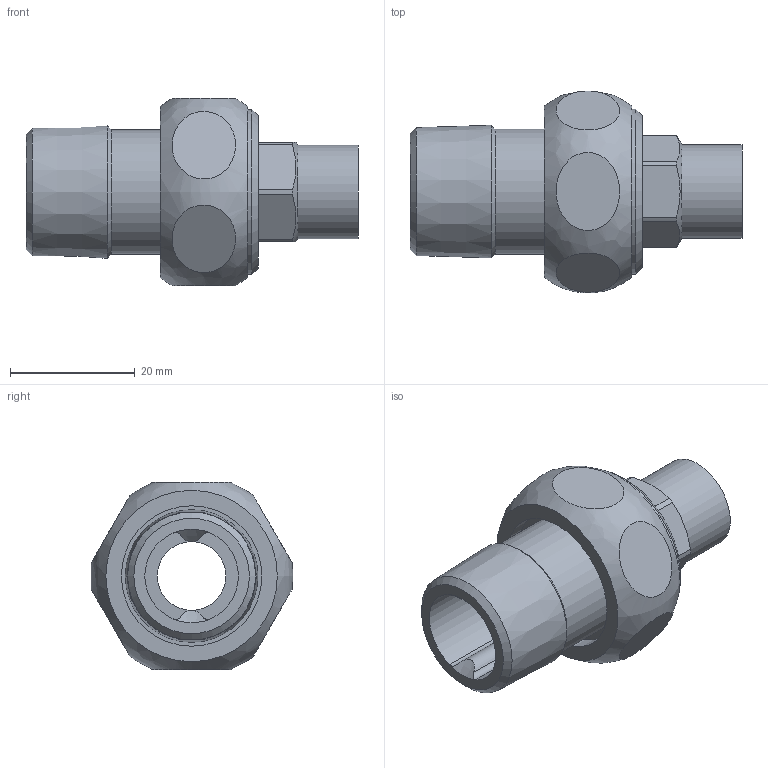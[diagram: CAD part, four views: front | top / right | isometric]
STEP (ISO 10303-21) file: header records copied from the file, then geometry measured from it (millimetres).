
FILE_DESCRIPTION((''),'2;1');
FILE_NAME('\\Lg50001\groups\SANHA Legnica\Engineering\Public\RYSUNKI\SANHA POLSKA\4341g\step\14341g_12-12(1).stp','2010-10-26T09:29:20',('pajchrowski'),(''),'Autodesk Inventor 2009','Autodesk Inventor 2009','');
FILE_SCHEMA(('AUTOMOTIVE_DESIGN { 1 0 10303 214 1 1 1 1 }'));
Length unit declared in the file: millimetre
Products named in the file (4): 14341g_12-12(1); 14382_12-34(2); 14374_34(2); 14380_12-34-A(2)
Assembly tree (3 placements, depth 2):
  14341g_12-12(1)
    14382_12-34(2)
    14374_34(2)
    14380_12-34-A(2)
Bounding box: 53.2 x 32.35 x 30 mm (x, y, z)
Volume: 13528.6 mm3; surface area: 10050.7 mm2
Topology: 3 solids, 3 shells, 59 faces, 121 edges, 79 vertices
Faces by surface type: plane 23, cylinder 23, cone 11, torus 1, bspline 1
Full cylindrical faces by diameter (mm): 11 x1, 12 x1, 15 x1, 20 x1, 21 x1, 22.5 x1, 23.5 x1, 24.117 x1, 26.441 x1
Entity records: 2715 total; most frequent: CARTESIAN_POINT 1440, DIRECTION 250, ORIENTED_EDGE 202, AXIS2_PLACEMENT_3D 112, EDGE_CURVE 101, EDGE_LOOP 94, VERTEX_POINT 77, FACE_OUTER_BOUND 59
